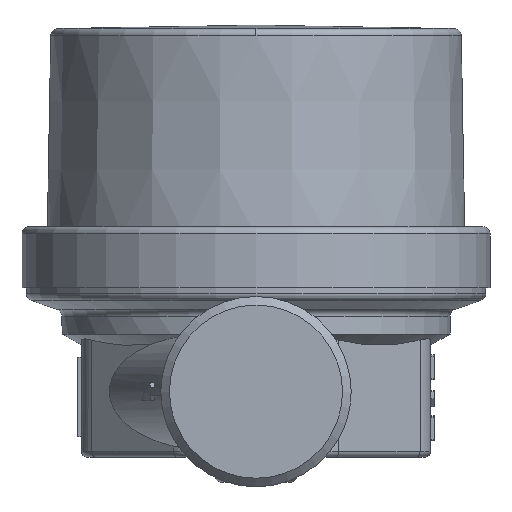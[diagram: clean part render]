
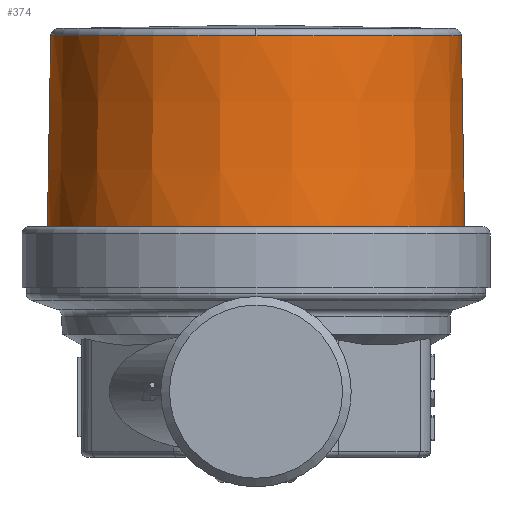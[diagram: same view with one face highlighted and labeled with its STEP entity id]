
A CAD part, front view. The second image highlights one B-rep face of the part: STEP entity #374.
In plain terms, the highlighted conical face has half-angle 1 degrees and reference radius 28.753 mm.
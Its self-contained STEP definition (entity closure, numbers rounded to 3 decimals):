
#374=ADVANCED_FACE('',(#2651,#2653),#2655,.T.);
#2651=FACE_OUTER_BOUND('',#2652,.T.);
#2652=EDGE_LOOP('',(#4765));
#2653=FACE_BOUND('',#2654,.T.);
#2654=EDGE_LOOP('',(#4766,#4767));
#2655=CONICAL_SURFACE('',#2656,28.753,0.017);
#2656=AXIS2_PLACEMENT_3D('',#2657,#2658,#2659);
#2657=CARTESIAN_POINT('',(0.,0.,35.569));
#2658=DIRECTION('',(0.,0.,-1.));
#2659=DIRECTION('',(-1.,0.,0.));
#4765=ORIENTED_EDGE('',*,*,#5689,.T.);
#4766=ORIENTED_EDGE('',*,*,#5690,.T.);
#4767=ORIENTED_EDGE('',*,*,#5691,.T.);
#5689=EDGE_CURVE('',#7159,#7159,#7160,.T.);
#5690=EDGE_CURVE('',#7161,#7162,#7163,.F.);
#5691=EDGE_CURVE('',#7162,#7161,#7164,.F.);
#7159=VERTEX_POINT('',#11518);
#7160=CIRCLE('',#11519,28.995);
#7161=VERTEX_POINT('',#11523);
#7162=VERTEX_POINT('',#11524);
#7163=CIRCLE('',#11525,28.51);
#7164=CIRCLE('',#11529,28.51);
#11518=CARTESIAN_POINT('',(28.995,0.,21.695));
#11519=AXIS2_PLACEMENT_3D('',#11520,#11521,#11522);
#11520=CARTESIAN_POINT('',(0.,0.,21.695));
#11521=DIRECTION('',(0.,0.,1.));
#11522=DIRECTION('',(1.,0.,0.));
#11523=CARTESIAN_POINT('',(28.51,0.,49.444));
#11524=CARTESIAN_POINT('',(0.,-28.51,49.444));
#11525=AXIS2_PLACEMENT_3D('',#11526,#11527,#11528);
#11526=CARTESIAN_POINT('',(0.,0.,49.444));
#11527=DIRECTION('',(0.,0.,1.));
#11528=DIRECTION('',(0.,-1.,0.));
#11529=AXIS2_PLACEMENT_3D('',#11530,#11531,#11532);
#11530=CARTESIAN_POINT('',(0.,0.,49.444));
#11531=DIRECTION('',(0.,0.,1.));
#11532=DIRECTION('',(1.,0.,0.));
